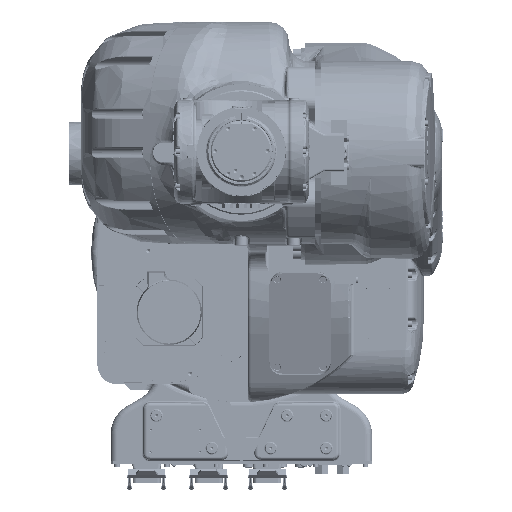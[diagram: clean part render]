
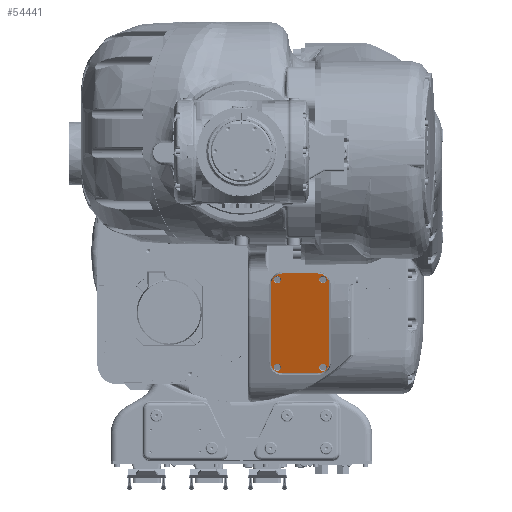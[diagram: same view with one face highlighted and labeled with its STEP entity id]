
A CAD part, top view. The second image highlights one B-rep face of the part: STEP entity #54441.
In plain terms, the highlighted planar face has unit normal (0, -0.292, 0.956).
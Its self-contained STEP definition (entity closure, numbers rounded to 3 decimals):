
#51687=CARTESIAN_POINT('Vertex',(63.,-33.063,-172.853)) ;
#51690=CARTESIAN_POINT('Line Origine',(90.,-33.063,-172.853)) ;
#51694=CARTESIAN_POINT('Vertex',(117.,-33.063,-172.853)) ;
#51714=CARTESIAN_POINT('Axis2P3D Location',(117.,-50.276,-178.116)) ;
#51718=CARTESIAN_POINT('Vertex',(135.,-50.276,-178.116)) ;
#51738=CARTESIAN_POINT('Line Origine',(135.,-109.567,-196.243)) ;
#51742=CARTESIAN_POINT('Vertex',(135.,-168.858,-214.37)) ;
#51762=CARTESIAN_POINT('Axis2P3D Location',(117.,-168.858,-214.37)) ;
#51766=CARTESIAN_POINT('Vertex',(117.,-186.072,-219.633)) ;
#51786=CARTESIAN_POINT('Line Origine',(90.,-186.072,-219.633)) ;
#51790=CARTESIAN_POINT('Vertex',(63.,-186.072,-219.633)) ;
#51810=CARTESIAN_POINT('Axis2P3D Location',(63.,-168.858,-214.37)) ;
#51814=CARTESIAN_POINT('Vertex',(45.,-168.858,-214.37)) ;
#51834=CARTESIAN_POINT('Line Origine',(45.,-109.567,-196.243)) ;
#51838=CARTESIAN_POINT('Vertex',(45.,-50.276,-178.116)) ;
#51858=CARTESIAN_POINT('Axis2P3D Location',(63.,-50.276,-178.116)) ;
#54354=CARTESIAN_POINT('Axis2P3D Location',(90.,-33.063,-172.853)) ;
#54369=CARTESIAN_POINT('Axis2P3D Location',(55.,-42.626,-175.777)) ;
#54373=CARTESIAN_POINT('Vertex',(60.046,-45.262,-176.583)) ;
#54375=CARTESIAN_POINT('Vertex',(49.954,-39.99,-174.971)) ;
#54378=CARTESIAN_POINT('Axis2P3D Location',(55.,-42.626,-175.777)) ;
#54387=CARTESIAN_POINT('Axis2P3D Location',(125.,-42.626,-175.777)) ;
#54391=CARTESIAN_POINT('Vertex',(119.954,-39.99,-174.971)) ;
#54393=CARTESIAN_POINT('Vertex',(130.046,-45.262,-176.583)) ;
#54396=CARTESIAN_POINT('Axis2P3D Location',(125.,-42.626,-175.777)) ;
#54405=CARTESIAN_POINT('Axis2P3D Location',(55.,-176.509,-216.709)) ;
#54409=CARTESIAN_POINT('Vertex',(49.954,-173.872,-215.903)) ;
#54411=CARTESIAN_POINT('Vertex',(60.046,-179.145,-217.515)) ;
#54414=CARTESIAN_POINT('Axis2P3D Location',(55.,-176.509,-216.709)) ;
#54423=CARTESIAN_POINT('Axis2P3D Location',(125.,-176.509,-216.709)) ;
#54427=CARTESIAN_POINT('Vertex',(119.954,-173.872,-215.903)) ;
#54429=CARTESIAN_POINT('Vertex',(130.046,-179.145,-217.515)) ;
#54432=CARTESIAN_POINT('Axis2P3D Location',(125.,-176.509,-216.709)) ;
#51691=DIRECTION('Vector Direction',(-1.,0.,0.)) ;
#51715=DIRECTION('Axis2P3D Direction',(0.,0.292,-0.956)) ;
#51739=DIRECTION('Vector Direction',(0.,0.956,0.292)) ;
#51763=DIRECTION('Axis2P3D Direction',(0.,0.292,-0.956)) ;
#51787=DIRECTION('Vector Direction',(1.,0.,0.)) ;
#51811=DIRECTION('Axis2P3D Direction',(0.,0.292,-0.956)) ;
#51835=DIRECTION('Vector Direction',(0.,-0.956,-0.292)) ;
#51859=DIRECTION('Axis2P3D Direction',(0.,0.292,-0.956)) ;
#54355=DIRECTION('Axis2P3D Direction',(0.,-0.292,0.956)) ;
#54356=DIRECTION('Axis2P3D XDirection',(-1.,0.,0.)) ;
#54370=DIRECTION('Axis2P3D Direction',(0.,-0.292,0.956)) ;
#54379=DIRECTION('Axis2P3D Direction',(0.,-0.292,0.956)) ;
#54388=DIRECTION('Axis2P3D Direction',(0.,-0.292,0.956)) ;
#54397=DIRECTION('Axis2P3D Direction',(0.,-0.292,0.956)) ;
#54406=DIRECTION('Axis2P3D Direction',(0.,-0.292,0.956)) ;
#54415=DIRECTION('Axis2P3D Direction',(0.,-0.292,0.956)) ;
#54424=DIRECTION('Axis2P3D Direction',(0.,-0.292,0.956)) ;
#54433=DIRECTION('Axis2P3D Direction',(0.,-0.292,0.956)) ;
#51716=AXIS2_PLACEMENT_3D('Circle Axis2P3D',#51714,#51715,$) ;
#51764=AXIS2_PLACEMENT_3D('Circle Axis2P3D',#51762,#51763,$) ;
#51812=AXIS2_PLACEMENT_3D('Circle Axis2P3D',#51810,#51811,$) ;
#51860=AXIS2_PLACEMENT_3D('Circle Axis2P3D',#51858,#51859,$) ;
#54357=AXIS2_PLACEMENT_3D('Plane Axis2P3D',#54354,#54355,#54356) ;
#54371=AXIS2_PLACEMENT_3D('Circle Axis2P3D',#54369,#54370,$) ;
#54380=AXIS2_PLACEMENT_3D('Circle Axis2P3D',#54378,#54379,$) ;
#54389=AXIS2_PLACEMENT_3D('Circle Axis2P3D',#54387,#54388,$) ;
#54398=AXIS2_PLACEMENT_3D('Circle Axis2P3D',#54396,#54397,$) ;
#54407=AXIS2_PLACEMENT_3D('Circle Axis2P3D',#54405,#54406,$) ;
#54416=AXIS2_PLACEMENT_3D('Circle Axis2P3D',#54414,#54415,$) ;
#54425=AXIS2_PLACEMENT_3D('Circle Axis2P3D',#54423,#54424,$) ;
#54434=AXIS2_PLACEMENT_3D('Circle Axis2P3D',#54432,#54433,$) ;
#54360=ORIENTED_EDGE('',*,*,#51696,.T.) ;
#54361=ORIENTED_EDGE('',*,*,#51862,.T.) ;
#54362=ORIENTED_EDGE('',*,*,#51840,.T.) ;
#54363=ORIENTED_EDGE('',*,*,#51816,.T.) ;
#54364=ORIENTED_EDGE('',*,*,#51792,.T.) ;
#54365=ORIENTED_EDGE('',*,*,#51768,.T.) ;
#54366=ORIENTED_EDGE('',*,*,#51744,.T.) ;
#54367=ORIENTED_EDGE('',*,*,#51720,.T.) ;
#54384=ORIENTED_EDGE('',*,*,#54377,.F.) ;
#54385=ORIENTED_EDGE('',*,*,#54382,.F.) ;
#54402=ORIENTED_EDGE('',*,*,#54395,.F.) ;
#54403=ORIENTED_EDGE('',*,*,#54400,.F.) ;
#54420=ORIENTED_EDGE('',*,*,#54413,.F.) ;
#54421=ORIENTED_EDGE('',*,*,#54418,.F.) ;
#54438=ORIENTED_EDGE('',*,*,#54431,.F.) ;
#54439=ORIENTED_EDGE('',*,*,#54436,.F.) ;
#54386=FACE_BOUND('',#54383,.T.) ;
#54404=FACE_BOUND('',#54401,.T.) ;
#54422=FACE_BOUND('',#54419,.T.) ;
#54440=FACE_BOUND('',#54437,.T.) ;
#51692=VECTOR('Line Direction',#51691,1.) ;
#51740=VECTOR('Line Direction',#51739,1.) ;
#51788=VECTOR('Line Direction',#51787,1.) ;
#51836=VECTOR('Line Direction',#51835,1.) ;
#54441=ADVANCED_FACE('J2',(#54368,#54386,#54404,#54422,#54440),#54358,.T.) ;
#51717=CIRCLE('generated circle',#51716,18.) ;
#51765=CIRCLE('generated circle',#51764,18.) ;
#51813=CIRCLE('generated circle',#51812,18.) ;
#51861=CIRCLE('generated circle',#51860,18.) ;
#54372=CIRCLE('generated circle',#54371,5.75) ;
#54381=CIRCLE('generated circle',#54380,5.75) ;
#54390=CIRCLE('generated circle',#54389,5.75) ;
#54399=CIRCLE('generated circle',#54398,5.75) ;
#54408=CIRCLE('generated circle',#54407,5.75) ;
#54417=CIRCLE('generated circle',#54416,5.75) ;
#54426=CIRCLE('generated circle',#54425,5.75) ;
#54435=CIRCLE('generated circle',#54434,5.75) ;
#51696=EDGE_CURVE('',#51695,#51688,#51693,.T.) ;
#51720=EDGE_CURVE('',#51719,#51695,#51717,.F.) ;
#51744=EDGE_CURVE('',#51743,#51719,#51741,.T.) ;
#51768=EDGE_CURVE('',#51767,#51743,#51765,.F.) ;
#51792=EDGE_CURVE('',#51791,#51767,#51789,.T.) ;
#51816=EDGE_CURVE('',#51815,#51791,#51813,.F.) ;
#51840=EDGE_CURVE('',#51839,#51815,#51837,.T.) ;
#51862=EDGE_CURVE('',#51688,#51839,#51861,.F.) ;
#54377=EDGE_CURVE('',#54374,#54376,#54372,.T.) ;
#54382=EDGE_CURVE('',#54376,#54374,#54381,.T.) ;
#54395=EDGE_CURVE('',#54392,#54394,#54390,.T.) ;
#54400=EDGE_CURVE('',#54394,#54392,#54399,.T.) ;
#54413=EDGE_CURVE('',#54410,#54412,#54408,.T.) ;
#54418=EDGE_CURVE('',#54412,#54410,#54417,.T.) ;
#54431=EDGE_CURVE('',#54428,#54430,#54426,.T.) ;
#54436=EDGE_CURVE('',#54430,#54428,#54435,.T.) ;
#54359=EDGE_LOOP('',(#54360,#54361,#54362,#54363,#54364,#54365,#54366,#54367)) ;
#54383=EDGE_LOOP('',(#54384,#54385)) ;
#54401=EDGE_LOOP('',(#54402,#54403)) ;
#54419=EDGE_LOOP('',(#54420,#54421)) ;
#54437=EDGE_LOOP('',(#54438,#54439)) ;
#54368=FACE_OUTER_BOUND('',#54359,.T.) ;
#51693=LINE('Line',#51690,#51692) ;
#51741=LINE('Line',#51738,#51740) ;
#51789=LINE('Line',#51786,#51788) ;
#51837=LINE('Line',#51834,#51836) ;
#54358=PLANE('',#54357) ;
#51688=VERTEX_POINT('',#51687) ;
#51695=VERTEX_POINT('',#51694) ;
#51719=VERTEX_POINT('',#51718) ;
#51743=VERTEX_POINT('',#51742) ;
#51767=VERTEX_POINT('',#51766) ;
#51791=VERTEX_POINT('',#51790) ;
#51815=VERTEX_POINT('',#51814) ;
#51839=VERTEX_POINT('',#51838) ;
#54374=VERTEX_POINT('',#54373) ;
#54376=VERTEX_POINT('',#54375) ;
#54392=VERTEX_POINT('',#54391) ;
#54394=VERTEX_POINT('',#54393) ;
#54410=VERTEX_POINT('',#54409) ;
#54412=VERTEX_POINT('',#54411) ;
#54428=VERTEX_POINT('',#54427) ;
#54430=VERTEX_POINT('',#54429) ;
